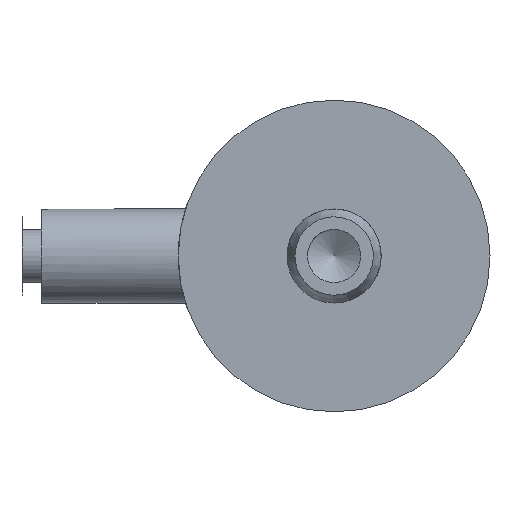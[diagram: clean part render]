
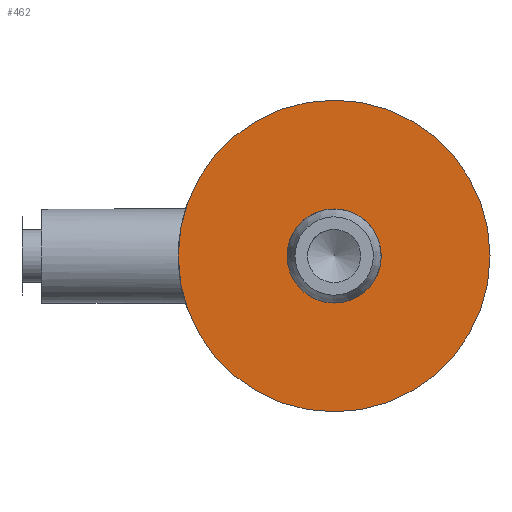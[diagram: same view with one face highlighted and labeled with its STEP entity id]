
A CAD part, left-side view. The second image highlights one B-rep face of the part: STEP entity #462.
In plain terms, the highlighted planar face has unit normal (-1, 0, 0).
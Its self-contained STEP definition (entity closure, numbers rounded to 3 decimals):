
#22=FACE_BOUND('',#95,.T.);
#33=PLANE('',#552);
#66=FACE_OUTER_BOUND('',#94,.T.);
#94=EDGE_LOOP('',(#422,#423));
#95=EDGE_LOOP('',(#424,#425));
#173=CIRCLE('',#538,1.195);
#174=CIRCLE('',#539,1.195);
#180=CIRCLE('',#548,3.96);
#181=CIRCLE('',#549,3.96);
#223=VERTEX_POINT('',#830);
#224=VERTEX_POINT('',#832);
#233=VERTEX_POINT('',#890);
#234=VERTEX_POINT('',#892);
#287=EDGE_CURVE('',#223,#224,#173,.T.);
#288=EDGE_CURVE('',#224,#223,#174,.T.);
#299=EDGE_CURVE('',#234,#233,#180,.T.);
#300=EDGE_CURVE('',#233,#234,#181,.T.);
#422=ORIENTED_EDGE('',*,*,#299,.T.);
#423=ORIENTED_EDGE('',*,*,#300,.T.);
#424=ORIENTED_EDGE('',*,*,#288,.F.);
#425=ORIENTED_EDGE('',*,*,#287,.F.);
#462=ADVANCED_FACE('',(#66,#22),#33,.T.);
#538=AXIS2_PLACEMENT_3D('',#833,#674,#675);
#539=AXIS2_PLACEMENT_3D('',#834,#676,#677);
#548=AXIS2_PLACEMENT_3D('',#893,#697,#698);
#549=AXIS2_PLACEMENT_3D('',#894,#699,#700);
#552=AXIS2_PLACEMENT_3D('',#897,#705,#706);
#674=DIRECTION('center_axis',(-1.,0.,0.));
#675=DIRECTION('ref_axis',(0.,-1.,0.));
#676=DIRECTION('center_axis',(-1.,0.,0.));
#677=DIRECTION('ref_axis',(0.,-1.,0.));
#697=DIRECTION('center_axis',(-1.,0.,0.));
#698=DIRECTION('ref_axis',(0.,-1.,0.));
#699=DIRECTION('center_axis',(-1.,0.,0.));
#700=DIRECTION('ref_axis',(0.,-1.,0.));
#705=DIRECTION('center_axis',(-1.,0.,0.));
#706=DIRECTION('ref_axis',(0.,0.,1.));
#830=CARTESIAN_POINT('',(-6.375,0.,-1.195));
#832=CARTESIAN_POINT('',(-6.375,1.195,0.));
#833=CARTESIAN_POINT('Origin',(-6.375,0.,0.));
#834=CARTESIAN_POINT('Origin',(-6.375,0.,0.));
#890=CARTESIAN_POINT('',(-6.375,0.,-3.96));
#892=CARTESIAN_POINT('',(-6.375,-3.96,0.));
#893=CARTESIAN_POINT('Origin',(-6.375,0.,0.));
#894=CARTESIAN_POINT('Origin',(-6.375,0.,0.));
#897=CARTESIAN_POINT('Origin',(-6.375,0.,-4.008));
